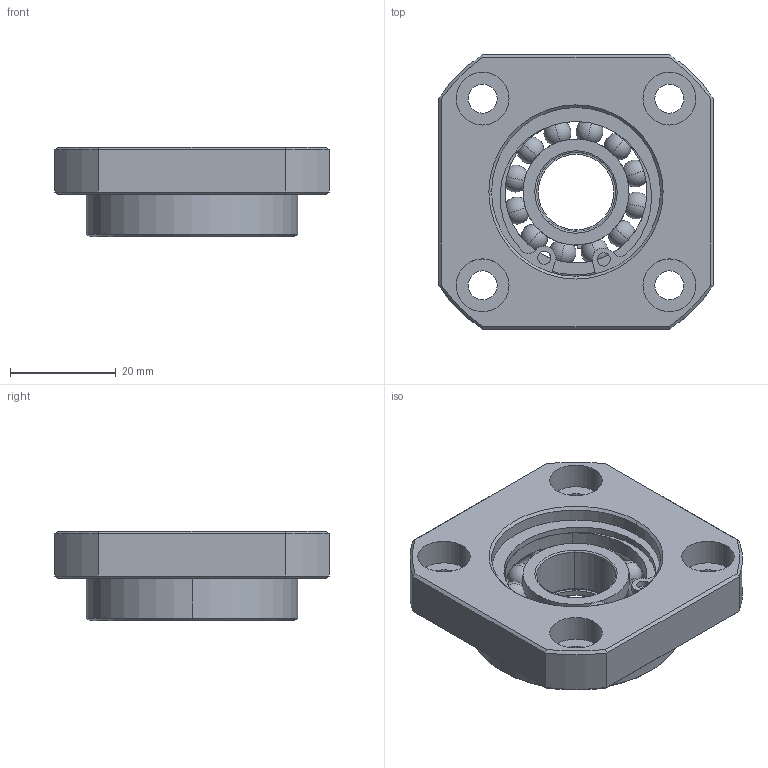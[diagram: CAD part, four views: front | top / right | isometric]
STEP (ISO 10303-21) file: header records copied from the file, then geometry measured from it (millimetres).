
FILE_DESCRIPTION (( 'STEP AP203' ), '1' );
FILE_NAME ('GTR15.STEP', '2014-08-06T06:26:53', ( 'user' ), ( '' ), 'SwSTEP 2.0', 'SolidWorks 2014', '' );
FILE_SCHEMA (( 'CONFIG_CONTROL_DESIGN' ));
Length unit declared in the file: millimetre
Products named in the file (1): GTR15
Bounding box: 52 x 52 x 17 mm (x, y, z)
Surface area: 12630.9 mm2 (no closed solid volume)
Topology: 0 solids, 4 shells, 169 faces, 604 edges, 396 vertices
Faces by surface type: cylinder 64, plane 35, torus 32, sphere 24, cone 14
Entity records: 7048 total; most frequent: CARTESIAN_POINT 2238, ORIENTED_EDGE 1039, DIRECTION 969, EDGE_CURVE 544, AXIS2_PLACEMENT_3D 427, VERTEX_POINT 360, CIRCLE 257, EDGE_LOOP 195
